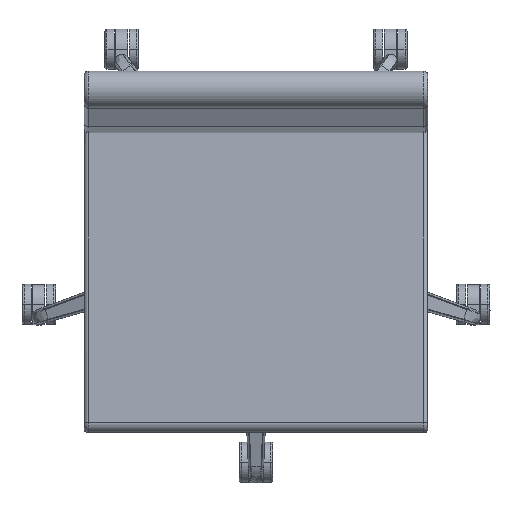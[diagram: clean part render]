
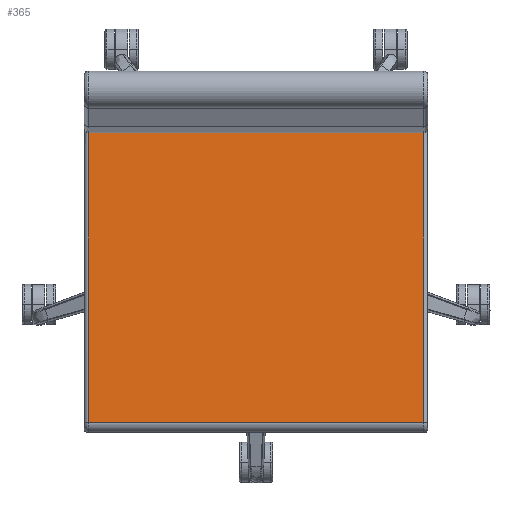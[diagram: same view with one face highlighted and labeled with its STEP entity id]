
A CAD part, top view. The second image highlights one B-rep face of the part: STEP entity #365.
In plain terms, the highlighted free-form (B-spline) face has degree [3, 1] with [4, 2] control points.
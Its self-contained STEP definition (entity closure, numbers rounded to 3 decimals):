
#365=ADVANCED_FACE('',(#676),#4374,.T.);
#676=FACE_OUTER_BOUND('',#987,.T.);
#987=EDGE_LOOP('',(#2188,#2189,#2190,#2191));
#2188=ORIENTED_EDGE('',*,*,#3006,.T.);
#2189=ORIENTED_EDGE('',*,*,#2969,.T.);
#2190=ORIENTED_EDGE('',*,*,#3007,.F.);
#2191=ORIENTED_EDGE('',*,*,#2968,.F.);
#2968=EDGE_CURVE('',#4134,#4135,#3375,.T.);
#2969=EDGE_CURVE('',#4136,#4137,#3376,.T.);
#3006=EDGE_CURVE('',#4134,#4136,#3407,.T.);
#3007=EDGE_CURVE('',#4135,#4137,#3408,.T.);
#3375=(
BOUNDED_CURVE()
B_SPLINE_CURVE(1,(#15762,#15763),.UNSPECIFIED.,.F.,.F.)
B_SPLINE_CURVE_WITH_KNOTS((2,2),(6.,504.),.UNSPECIFIED.)
CURVE()
GEOMETRIC_REPRESENTATION_ITEM()
RATIONAL_B_SPLINE_CURVE((1.,1.))
REPRESENTATION_ITEM('')
);
#3376=(
BOUNDED_CURVE()
B_SPLINE_CURVE(1,(#15764,#15765),.UNSPECIFIED.,.F.,.F.)
B_SPLINE_CURVE_WITH_KNOTS((2,2),(6.,504.),.UNSPECIFIED.)
CURVE()
GEOMETRIC_REPRESENTATION_ITEM()
RATIONAL_B_SPLINE_CURVE((1.,1.))
REPRESENTATION_ITEM('')
);
#3407=(
BOUNDED_CURVE()
B_SPLINE_CURVE(1,(#15897,#15898),.UNSPECIFIED.,.F.,.F.)
B_SPLINE_CURVE_WITH_KNOTS((2,2),(0.,432.642),
 .UNSPECIFIED.)
CURVE()
GEOMETRIC_REPRESENTATION_ITEM()
RATIONAL_B_SPLINE_CURVE((1.,1.))
REPRESENTATION_ITEM('')
);
#3408=(
BOUNDED_CURVE()
B_SPLINE_CURVE(1,(#15899,#15900),.UNSPECIFIED.,.F.,.F.)
B_SPLINE_CURVE_WITH_KNOTS((2,2),(0.,432.642),
 .UNSPECIFIED.)
CURVE()
GEOMETRIC_REPRESENTATION_ITEM()
RATIONAL_B_SPLINE_CURVE((1.,1.))
REPRESENTATION_ITEM('')
);
#4134=VERTEX_POINT('',#15682);
#4135=VERTEX_POINT('',#15683);
#4136=VERTEX_POINT('',#15684);
#4137=VERTEX_POINT('',#15685);
#4374=(
BOUNDED_SURFACE()
B_SPLINE_SURFACE(3,1,((#15292,#15293),(#15294,#15295),(#15296,#15297),(#15298,
#15299)),.UNSPECIFIED.,.F.,.F.,.F.)
B_SPLINE_SURFACE_WITH_KNOTS((4,4),(2,2),(-1381.837,-949.195),
(0.,510.),.UNSPECIFIED.)
GEOMETRIC_REPRESENTATION_ITEM()
RATIONAL_B_SPLINE_SURFACE(((1.,1.),(1.,1.),(1.,1.),(1.,1.)))
REPRESENTATION_ITEM('')
SURFACE()
);
#15292=CARTESIAN_POINT('',(-255.,170.787,428.017));
#15293=CARTESIAN_POINT('',(255.,170.787,428.017));
#15294=CARTESIAN_POINT('',(-255.,26.739,434.942));
#15295=CARTESIAN_POINT('',(255.,26.739,434.942));
#15296=CARTESIAN_POINT('',(-255.,-117.308,441.867));
#15297=CARTESIAN_POINT('',(255.,-117.308,441.867));
#15298=CARTESIAN_POINT('',(-255.,-261.356,448.793));
#15299=CARTESIAN_POINT('',(255.,-261.356,448.793));
#15682=CARTESIAN_POINT('',(-249.,170.787,428.017));
#15683=CARTESIAN_POINT('',(249.,170.787,428.017));
#15684=CARTESIAN_POINT('',(-249.,-261.356,448.793));
#15685=CARTESIAN_POINT('',(249.,-261.356,448.793));
#15762=CARTESIAN_POINT('',(-249.,170.787,428.017));
#15763=CARTESIAN_POINT('',(249.,170.787,428.017));
#15764=CARTESIAN_POINT('',(-249.,-261.356,448.793));
#15765=CARTESIAN_POINT('',(249.,-261.356,448.793));
#15897=CARTESIAN_POINT('',(-249.,170.787,428.017));
#15898=CARTESIAN_POINT('',(-249.,-261.356,448.793));
#15899=CARTESIAN_POINT('',(249.,170.787,428.017));
#15900=CARTESIAN_POINT('',(249.,-261.356,448.793));
